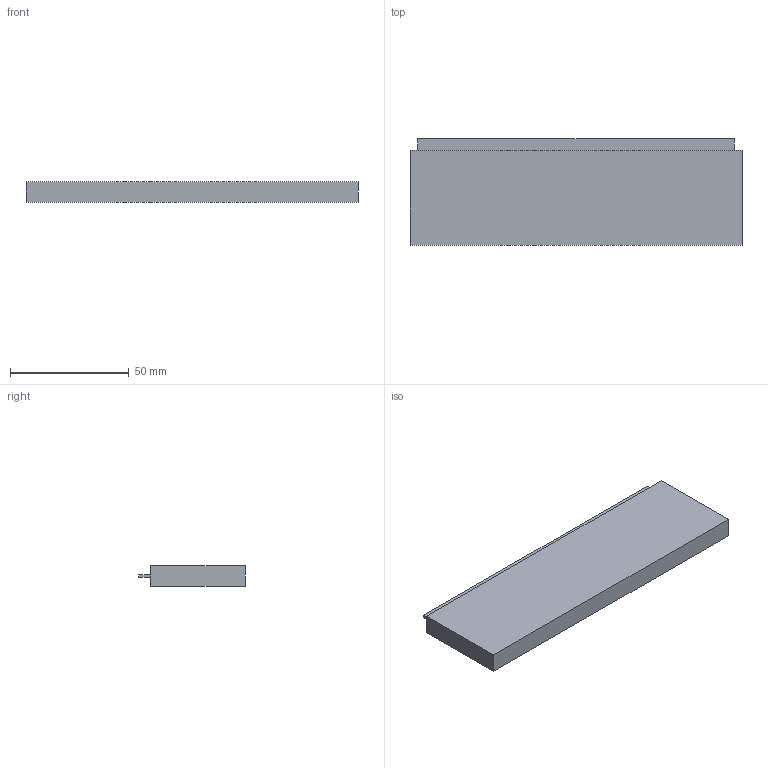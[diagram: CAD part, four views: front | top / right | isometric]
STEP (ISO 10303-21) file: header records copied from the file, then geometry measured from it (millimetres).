
FILE_DESCRIPTION(('Open CASCADE Model'),'2;1');
FILE_NAME('Open CASCADE Shape Model','2026-11-03T10:25:35',('Author'),( 'Open CASCADE'),'Open CASCADE STEP processor 8.0','build123d', 'Unknown');
FILE_SCHEMA(('AUTOMOTIVE_DESIGN { 1 0 10303 214 1 1 1 1 }'));
Length unit declared in the file: millimetre
Products named in the file (1): COMPOUND
Bounding box: 140 x 45 x 8.5 mm (x, y, z)
Volume: 48400.1 mm3; surface area: 15605.5 mm2
Topology: 1 solids, 1 shells, 11 faces, 24 edges, 16 vertices
Faces by surface type: plane 11
Entity records: 612 total; most frequent: CARTESIAN_POINT 108, DIRECTION 88, LINE 64, VECTOR 64, ORIENTED_EDGE 48, PCURVE 48, DEFINITIONAL_REPRESENTATION 48, EDGE_CURVE 24
